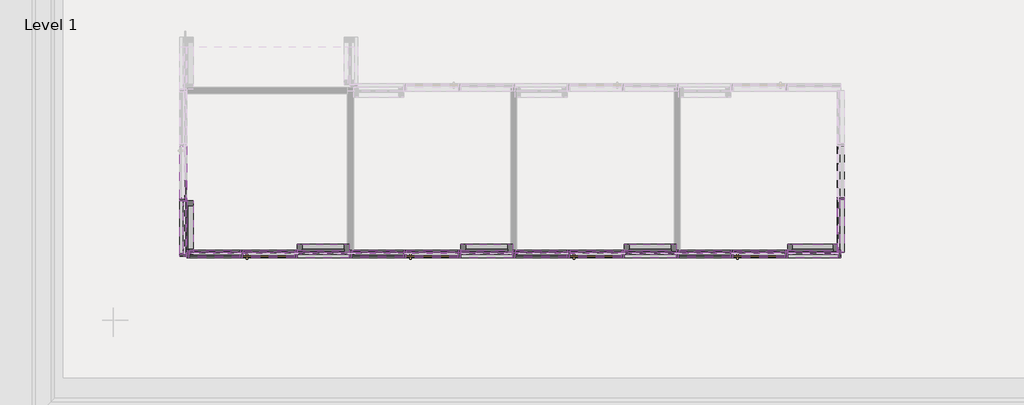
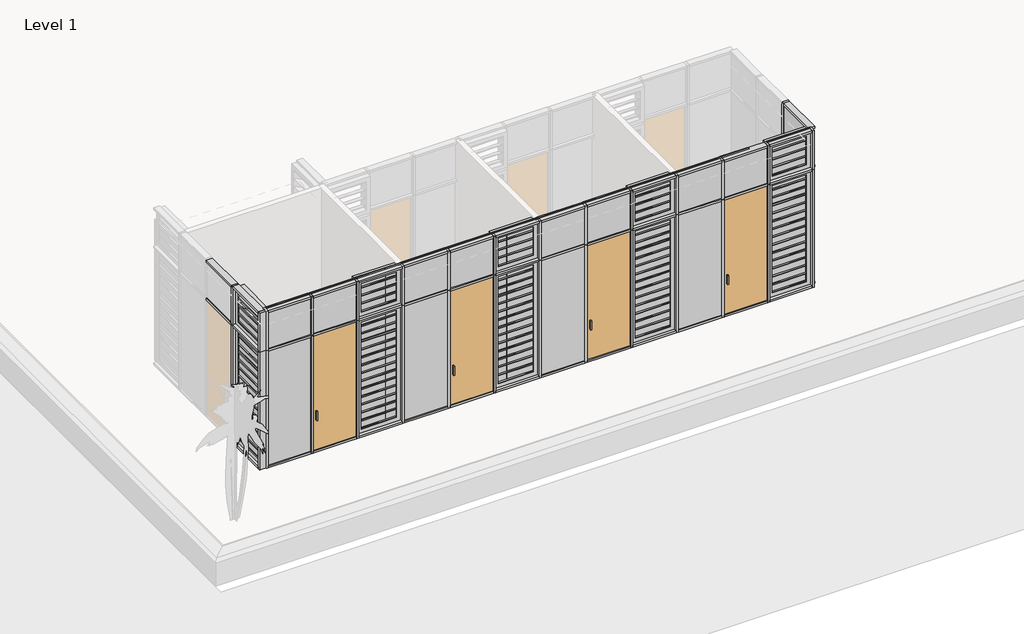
# One storey, part 1 of 32: 77 members, 44 plates, 4 doors.
"""IFC4 building model written with IfcOpenShell, lengths in millimetres."""

from ifc_helpers import new_model, si_unit, origin, place, context, project, spatial, transform, mapped, element, save
from components import curtain_wall_door_single_glass_nz_curtain_wall_door_single_ff8afd41, rectangular_mullion_50x150mm_6c7cb899, rectangular_mullion_50x150mm_bbc1c4ea, rectangular_mullion_50x150mm_0d540e17, rectangular_mullion_50x150mm_108cdc6f, rectangular_mullion_50x150mm_1a36453b, rectangular_mullion_50x150mm_a65b6ca2, rectangular_mullion_50x150mm_38419d34, rectangular_mullion_50x150mm_eeb88b28, rectangular_mullion_50x150mm_68c91185, rectangular_mullion_50x150mm_370dcb64, rectangular_mullion_50x150mm_1881577e, rectangular_mullion_50x150mm_969ed0b5, rectangular_mullion_50x150mm_a0cfcace, rectangular_mullion_50x150mm_a540b215, curtain_wall_panel_louver_20805_curtain_wall_panel_louver_14332c5b, curtain_wall_panel_louver_20805_curtain_wall_panel_louver_7a110b76, curtain_wall_panel_louver_20805_curtain_wall_panel_louver_a21b802a, curtain_wall_panel_glass_louver_20805_curtain_wall_panel_0f8e40a1, curtain_wall_panel_glass_louver_20805_curtain_wall_panel_42fa0640, curtain_wall_panel_glass_louver_20805_curtain_wall_panel_94629aa8, system_panel_glazed_c6855d5e, system_panel_glazed_5b1beea7, system_panel_glazed_fe6e58a4, system_panel_glazed_a80c9663, system_panel_glazed_53fe5bbb, system_panel_glazed_bed50b64, system_panel_glazed_57b1a7ec, system_panel_glazed_e3f4a273, system_panel_solid_10c0fb46, system_panel_solid_2b2d5e45

model = new_model("IFC4")

# Units and contexts
model_context = context("Model", 3, world=origin())
ifc_project = project(units=[si_unit("LENGTHUNIT", "METRE", prefix="MILLI")], contexts=[model_context])

# Site, building, storey
site = spatial("IfcSite", under=ifc_project)
building = spatial("IfcBuilding", under=site)
storey = spatial("IfcBuildingStorey", under=building, Name="Level 1", Elevation=2800.0)

# Doors
placement = place(None, origin())
curtain_wall_door_single_glass_nz_curtain_wall_door_single_shape = curtain_wall_door_single_glass_nz_curtain_wall_door_single_ff8afd41(model_context)
element("IfcDoor", 1, ObjectType="Curtain Wall Door-Single-Glass (NZ) : Curtain Wall Door-Single-Glass (NZ)", at=placement, inside=storey, context=model_context, shape_type="MappedRepresentation", body=[
    mapped(curtain_wall_door_single_glass_nz_curtain_wall_door_single_shape, transform((-75609.8408447, -33305.9199596, 2850.0), x_axis=(1.0, 0.0, 0.0), y_axis=(0.0, 1.0, 0.0), z_axis=(0.0, 0.0, 1.0))),
])
element("IfcDoor", 2, ObjectType="Curtain Wall Door-Single-Glass (NZ) : Curtain Wall Door-Single-Glass (NZ)", at=placement, inside=storey, context=model_context, shape_type="MappedRepresentation", body=[
    mapped(curtain_wall_door_single_glass_nz_curtain_wall_door_single_shape, transform((-78909.8408447, -33305.9199596, 2850.0), x_axis=(1.0, 0.0, 0.0), y_axis=(0.0, 1.0, 0.0), z_axis=(0.0, 0.0, 1.0))),
])
element("IfcDoor", 3, ObjectType="Curtain Wall Door-Single-Glass (NZ) : Curtain Wall Door-Single-Glass (NZ)", at=placement, inside=storey, context=model_context, shape_type="MappedRepresentation", body=[
    mapped(curtain_wall_door_single_glass_nz_curtain_wall_door_single_shape, transform((-82209.8408447, -33305.9199596, 2850.0), x_axis=(1.0, 0.0, 0.0), y_axis=(0.0, 1.0, 0.0), z_axis=(0.0, 0.0, 1.0))),
])
element("IfcDoor", 4, ObjectType="Curtain Wall Door-Single-Glass (NZ) : Curtain Wall Door-Single-Glass (NZ)", at=placement, inside=storey, context=model_context, shape_type="MappedRepresentation", body=[
    mapped(curtain_wall_door_single_glass_nz_curtain_wall_door_single_shape, transform((-85509.8408447, -33305.9199596, 2850.0), x_axis=(1.0, 0.0, 0.0), y_axis=(0.0, 1.0, 0.0), z_axis=(0.0, 0.0, 1.0))),
])

# Members
rectangular_mullion_50x150mm_shape = rectangular_mullion_50x150mm_6c7cb899(model_context)
element("IfcMember", 5, ObjectType="Rectangular Mullion : 50x150mm", at=placement, inside=storey, context=model_context, shape_type="MappedRepresentation", body=[
    mapped(rectangular_mullion_50x150mm_shape, transform((-73959.8408447, -32179.2532929, 2800.0), x_axis=(0.0, 1.0, 0.0), y_axis=(1.0, 0.0, 0.0), z_axis=(0.0, 0.0, -1.0))),
])
rectangular_mullion_50x150mm_2_shape = rectangular_mullion_50x150mm_bbc1c4ea(model_context)
element("IfcMember", 6, ObjectType="Rectangular Mullion : 50x150mm", at=placement, inside=storey, context=model_context, shape_type="MappedRepresentation", body=[
    mapped(rectangular_mullion_50x150mm_2_shape, transform((-73959.8408447, -32179.2532929, 5800.0), x_axis=(0.0, 1.0, 0.0), y_axis=(1.0, 0.0, 0.0), z_axis=(0.0, 0.0, -1.0))),
])
element("IfcMember", 7, ObjectType="Rectangular Mullion : 50x150mm", at=placement, inside=storey, context=model_context, shape_type="MappedRepresentation", body=[
    mapped(rectangular_mullion_50x150mm_2_shape, transform((-77259.8408447, -33305.9199596, 5800.0), x_axis=(1.0, 0.0, 0.0), y_axis=(0.0, -1.0, 0.0), z_axis=(0.0, 0.0, -1.0))),
])
element("IfcMember", 8, ObjectType="Rectangular Mullion : 50x150mm", at=placement, inside=storey, context=model_context, shape_type="MappedRepresentation", body=[
    mapped(rectangular_mullion_50x150mm_2_shape, transform((-80559.8408447, -33305.9199596, 5800.0), x_axis=(1.0, 0.0, 0.0), y_axis=(0.0, -1.0, 0.0), z_axis=(0.0, 0.0, -1.0))),
])
element("IfcMember", 9, ObjectType="Rectangular Mullion : 50x150mm", at=placement, inside=storey, context=model_context, shape_type="MappedRepresentation", body=[
    mapped(rectangular_mullion_50x150mm_2_shape, transform((-83859.8408447, -33305.9199596, 5800.0), x_axis=(1.0, 0.0, 0.0), y_axis=(0.0, -1.0, 0.0), z_axis=(0.0, 0.0, -1.0))),
])
element("IfcMember", 10, ObjectType="Rectangular Mullion : 50x150mm", at=placement, inside=storey, context=model_context, shape_type="MappedRepresentation", body=[
    mapped(rectangular_mullion_50x150mm_2_shape, transform((-75059.8408447, -33305.9199596, 5800.0), x_axis=(1.0, 0.0, 0.0), y_axis=(0.0, -1.0, 0.0), z_axis=(0.0, 0.0, -1.0))),
])
element("IfcMember", 11, ObjectType="Rectangular Mullion : 50x150mm", at=placement, inside=storey, context=model_context, shape_type="MappedRepresentation", body=[
    mapped(rectangular_mullion_50x150mm_2_shape, transform((-76159.8408447, -33305.9199596, 5800.0), x_axis=(1.0, 0.0, 0.0), y_axis=(0.0, -1.0, 0.0), z_axis=(0.0, 0.0, -1.0))),
])
element("IfcMember", 12, ObjectType="Rectangular Mullion : 50x150mm", at=placement, inside=storey, context=model_context, shape_type="MappedRepresentation", body=[
    mapped(rectangular_mullion_50x150mm_2_shape, transform((-78359.8408447, -33305.9199596, 5800.0), x_axis=(1.0, 0.0, 0.0), y_axis=(0.0, -1.0, 0.0), z_axis=(0.0, 0.0, -1.0))),
])
element("IfcMember", 13, ObjectType="Rectangular Mullion : 50x150mm", at=placement, inside=storey, context=model_context, shape_type="MappedRepresentation", body=[
    mapped(rectangular_mullion_50x150mm_2_shape, transform((-79459.8408447, -33305.9199596, 5800.0), x_axis=(1.0, 0.0, 0.0), y_axis=(0.0, -1.0, 0.0), z_axis=(0.0, 0.0, -1.0))),
])
element("IfcMember", 14, ObjectType="Rectangular Mullion : 50x150mm", at=placement, inside=storey, context=model_context, shape_type="MappedRepresentation", body=[
    mapped(rectangular_mullion_50x150mm_2_shape, transform((-81659.8408447, -33305.9199596, 5800.0), x_axis=(1.0, 0.0, 0.0), y_axis=(0.0, -1.0, 0.0), z_axis=(0.0, 0.0, -1.0))),
])
element("IfcMember", 15, ObjectType="Rectangular Mullion : 50x150mm", at=placement, inside=storey, context=model_context, shape_type="MappedRepresentation", body=[
    mapped(rectangular_mullion_50x150mm_2_shape, transform((-82759.8408447, -33305.9199596, 5800.0), x_axis=(1.0, 0.0, 0.0), y_axis=(0.0, -1.0, 0.0), z_axis=(0.0, 0.0, -1.0))),
])
element("IfcMember", 16, ObjectType="Rectangular Mullion : 50x150mm", at=placement, inside=storey, context=model_context, shape_type="MappedRepresentation", body=[
    mapped(rectangular_mullion_50x150mm_2_shape, transform((-84959.8408447, -33305.9199596, 5800.0), x_axis=(1.0, 0.0, 0.0), y_axis=(0.0, -1.0, 0.0), z_axis=(0.0, 0.0, -1.0))),
])
element("IfcMember", 17, ObjectType="Rectangular Mullion : 50x150mm", at=placement, inside=storey, context=model_context, shape_type="MappedRepresentation", body=[
    mapped(rectangular_mullion_50x150mm_2_shape, transform((-86059.8408447, -33305.9199596, 5800.0), x_axis=(1.0, 0.0, 0.0), y_axis=(0.0, -1.0, 0.0), z_axis=(0.0, 0.0, -1.0))),
])
element("IfcMember", 18, ObjectType="Rectangular Mullion : 50x150mm", at=placement, inside=storey, context=model_context, shape_type="MappedRepresentation", body=[
    mapped(rectangular_mullion_50x150mm_shape, transform((-77259.8408447, -33305.9199596, 2800.0), x_axis=(1.0, 0.0, 0.0), y_axis=(0.0, -1.0, 0.0), z_axis=(0.0, 0.0, -1.0))),
])
element("IfcMember", 19, ObjectType="Rectangular Mullion : 50x150mm", at=placement, inside=storey, context=model_context, shape_type="MappedRepresentation", body=[
    mapped(rectangular_mullion_50x150mm_shape, transform((-80559.8408447, -33305.9199596, 2800.0), x_axis=(1.0, 0.0, 0.0), y_axis=(0.0, -1.0, 0.0), z_axis=(0.0, 0.0, -1.0))),
])
element("IfcMember", 20, ObjectType="Rectangular Mullion : 50x150mm", at=placement, inside=storey, context=model_context, shape_type="MappedRepresentation", body=[
    mapped(rectangular_mullion_50x150mm_shape, transform((-83859.8408447, -33305.9199596, 2800.0), x_axis=(1.0, 0.0, 0.0), y_axis=(0.0, -1.0, 0.0), z_axis=(0.0, 0.0, -1.0))),
])
element("IfcMember", 21, ObjectType="Rectangular Mullion : 50x150mm", at=placement, inside=storey, context=model_context, shape_type="MappedRepresentation", body=[
    mapped(rectangular_mullion_50x150mm_shape, transform((-75059.8408447, -33305.9199596, 2800.0), x_axis=(1.0, 0.0, 0.0), y_axis=(0.0, -1.0, 0.0), z_axis=(0.0, 0.0, -1.0))),
])
element("IfcMember", 22, ObjectType="Rectangular Mullion : 50x150mm", at=placement, inside=storey, context=model_context, shape_type="MappedRepresentation", body=[
    mapped(rectangular_mullion_50x150mm_shape, transform((-76159.8408447, -33305.9199596, 2800.0), x_axis=(1.0, 0.0, 0.0), y_axis=(0.0, -1.0, 0.0), z_axis=(0.0, 0.0, -1.0))),
])
element("IfcMember", 23, ObjectType="Rectangular Mullion : 50x150mm", at=placement, inside=storey, context=model_context, shape_type="MappedRepresentation", body=[
    mapped(rectangular_mullion_50x150mm_shape, transform((-78359.8408447, -33305.9199596, 2800.0), x_axis=(1.0, 0.0, 0.0), y_axis=(0.0, -1.0, 0.0), z_axis=(0.0, 0.0, -1.0))),
])
element("IfcMember", 24, ObjectType="Rectangular Mullion : 50x150mm", at=placement, inside=storey, context=model_context, shape_type="MappedRepresentation", body=[
    mapped(rectangular_mullion_50x150mm_shape, transform((-79459.8408447, -33305.9199596, 2800.0), x_axis=(1.0, 0.0, 0.0), y_axis=(0.0, -1.0, 0.0), z_axis=(0.0, 0.0, -1.0))),
])
element("IfcMember", 25, ObjectType="Rectangular Mullion : 50x150mm", at=placement, inside=storey, context=model_context, shape_type="MappedRepresentation", body=[
    mapped(rectangular_mullion_50x150mm_shape, transform((-81659.8408447, -33305.9199596, 2800.0), x_axis=(1.0, 0.0, 0.0), y_axis=(0.0, -1.0, 0.0), z_axis=(0.0, 0.0, -1.0))),
])
element("IfcMember", 26, ObjectType="Rectangular Mullion : 50x150mm", at=placement, inside=storey, context=model_context, shape_type="MappedRepresentation", body=[
    mapped(rectangular_mullion_50x150mm_shape, transform((-82759.8408447, -33305.9199596, 2800.0), x_axis=(1.0, 0.0, 0.0), y_axis=(0.0, -1.0, 0.0), z_axis=(0.0, 0.0, -1.0))),
])
element("IfcMember", 27, ObjectType="Rectangular Mullion : 50x150mm", at=placement, inside=storey, context=model_context, shape_type="MappedRepresentation", body=[
    mapped(rectangular_mullion_50x150mm_shape, transform((-84959.8408447, -33305.9199596, 2800.0), x_axis=(1.0, 0.0, 0.0), y_axis=(0.0, -1.0, 0.0), z_axis=(0.0, 0.0, -1.0))),
])
element("IfcMember", 28, ObjectType="Rectangular Mullion : 50x150mm", at=placement, inside=storey, context=model_context, shape_type="MappedRepresentation", body=[
    mapped(rectangular_mullion_50x150mm_shape, transform((-86059.8408447, -33305.9199596, 2800.0), x_axis=(1.0, 0.0, 0.0), y_axis=(0.0, -1.0, 0.0), z_axis=(0.0, 0.0, -1.0))),
])
rectangular_mullion_50x150mm_3_shape = rectangular_mullion_50x150mm_0d540e17(model_context)
element("IfcMember", 29, ObjectType="Rectangular Mullion : 50x150mm", at=placement, inside=storey, context=model_context, shape_type="MappedRepresentation", body=[
    mapped(rectangular_mullion_50x150mm_3_shape, transform((-76184.8408447, -33305.9199596, 5800.0), x_axis=(0.0, 0.0, 1.0), y_axis=(0.0, -1.0, 0.0), z_axis=(1.0, 0.0, 0.0))),
])
element("IfcMember", 30, ObjectType="Rectangular Mullion : 50x150mm", at=placement, inside=storey, context=model_context, shape_type="MappedRepresentation", body=[
    mapped(rectangular_mullion_50x150mm_3_shape, transform((-79484.8408447, -33305.9199596, 5800.0), x_axis=(0.0, 0.0, 1.0), y_axis=(0.0, -1.0, 0.0), z_axis=(1.0, 0.0, 0.0))),
])
element("IfcMember", 31, ObjectType="Rectangular Mullion : 50x150mm", at=placement, inside=storey, context=model_context, shape_type="MappedRepresentation", body=[
    mapped(rectangular_mullion_50x150mm_3_shape, transform((-82784.8408447, -33305.9199596, 5800.0), x_axis=(0.0, 0.0, 1.0), y_axis=(0.0, -1.0, 0.0), z_axis=(1.0, 0.0, 0.0))),
])
element("IfcMember", 32, ObjectType="Rectangular Mullion : 50x150mm", at=placement, inside=storey, context=model_context, shape_type="MappedRepresentation", body=[
    mapped(rectangular_mullion_50x150mm_3_shape, transform((-75084.8408447, -33305.9199596, 5800.0), x_axis=(0.0, 0.0, 1.0), y_axis=(0.0, -1.0, 0.0), z_axis=(1.0, 0.0, 0.0))),
])
element("IfcMember", 33, ObjectType="Rectangular Mullion : 50x150mm", at=placement, inside=storey, context=model_context, shape_type="MappedRepresentation", body=[
    mapped(rectangular_mullion_50x150mm_3_shape, transform((-77284.8408447, -33305.9199596, 5800.0), x_axis=(0.0, 0.0, 1.0), y_axis=(0.0, -1.0, 0.0), z_axis=(1.0, 0.0, 0.0))),
])
element("IfcMember", 34, ObjectType="Rectangular Mullion : 50x150mm", at=placement, inside=storey, context=model_context, shape_type="MappedRepresentation", body=[
    mapped(rectangular_mullion_50x150mm_3_shape, transform((-78384.8408447, -33305.9199596, 5800.0), x_axis=(0.0, 0.0, 1.0), y_axis=(0.0, -1.0, 0.0), z_axis=(1.0, 0.0, 0.0))),
])
element("IfcMember", 35, ObjectType="Rectangular Mullion : 50x150mm", at=placement, inside=storey, context=model_context, shape_type="MappedRepresentation", body=[
    mapped(rectangular_mullion_50x150mm_3_shape, transform((-80584.8408447, -33305.9199596, 5800.0), x_axis=(0.0, 0.0, 1.0), y_axis=(0.0, -1.0, 0.0), z_axis=(1.0, 0.0, 0.0))),
])
element("IfcMember", 36, ObjectType="Rectangular Mullion : 50x150mm", at=placement, inside=storey, context=model_context, shape_type="MappedRepresentation", body=[
    mapped(rectangular_mullion_50x150mm_3_shape, transform((-81684.8408447, -33305.9199596, 5800.0), x_axis=(0.0, 0.0, 1.0), y_axis=(0.0, -1.0, 0.0), z_axis=(1.0, 0.0, 0.0))),
])
element("IfcMember", 37, ObjectType="Rectangular Mullion : 50x150mm", at=placement, inside=storey, context=model_context, shape_type="MappedRepresentation", body=[
    mapped(rectangular_mullion_50x150mm_3_shape, transform((-83884.8408447, -33305.9199596, 5800.0), x_axis=(0.0, 0.0, 1.0), y_axis=(0.0, -1.0, 0.0), z_axis=(1.0, 0.0, 0.0))),
])
element("IfcMember", 38, ObjectType="Rectangular Mullion : 50x150mm", at=placement, inside=storey, context=model_context, shape_type="MappedRepresentation", body=[
    mapped(rectangular_mullion_50x150mm_3_shape, transform((-84984.8408447, -33305.9199596, 5800.0), x_axis=(0.0, 0.0, 1.0), y_axis=(0.0, -1.0, 0.0), z_axis=(1.0, 0.0, 0.0))),
])
rectangular_mullion_50x150mm_4_shape = rectangular_mullion_50x150mm_108cdc6f(model_context)
element("IfcMember", 39, ObjectType="Rectangular Mullion : 50x150mm", at=placement, inside=storey, context=model_context, shape_type="MappedRepresentation", body=[
    mapped(rectangular_mullion_50x150mm_4_shape, transform((-77234.8408447, -33305.9199596, 2800.0), x_axis=(0.0, 0.0, -1.0), y_axis=(0.0, -1.0, 0.0), z_axis=(-1.0, 0.0, 0.0))),
])
element("IfcMember", 40, ObjectType="Rectangular Mullion : 50x150mm", at=placement, inside=storey, context=model_context, shape_type="MappedRepresentation", body=[
    mapped(rectangular_mullion_50x150mm_4_shape, transform((-80534.8408447, -33305.9199596, 2800.0), x_axis=(0.0, 0.0, -1.0), y_axis=(0.0, -1.0, 0.0), z_axis=(-1.0, 0.0, 0.0))),
])
element("IfcMember", 41, ObjectType="Rectangular Mullion : 50x150mm", at=placement, inside=storey, context=model_context, shape_type="MappedRepresentation", body=[
    mapped(rectangular_mullion_50x150mm_4_shape, transform((-83834.8408447, -33305.9199596, 2800.0), x_axis=(0.0, 0.0, -1.0), y_axis=(0.0, -1.0, 0.0), z_axis=(-1.0, 0.0, 0.0))),
])
element("IfcMember", 42, ObjectType="Rectangular Mullion : 50x150mm", at=placement, inside=storey, context=model_context, shape_type="MappedRepresentation", body=[
    mapped(rectangular_mullion_50x150mm_4_shape, transform((-76134.8408447, -33305.9199596, 2800.0), x_axis=(0.0, 0.0, -1.0), y_axis=(0.0, -1.0, 0.0), z_axis=(-1.0, 0.0, 0.0))),
])
element("IfcMember", 43, ObjectType="Rectangular Mullion : 50x150mm", at=placement, inside=storey, context=model_context, shape_type="MappedRepresentation", body=[
    mapped(rectangular_mullion_50x150mm_4_shape, transform((-78334.8408447, -33305.9199596, 2800.0), x_axis=(0.0, 0.0, -1.0), y_axis=(0.0, -1.0, 0.0), z_axis=(-1.0, 0.0, 0.0))),
])
element("IfcMember", 44, ObjectType="Rectangular Mullion : 50x150mm", at=placement, inside=storey, context=model_context, shape_type="MappedRepresentation", body=[
    mapped(rectangular_mullion_50x150mm_4_shape, transform((-79434.8408447, -33305.9199596, 2800.0), x_axis=(0.0, 0.0, -1.0), y_axis=(0.0, -1.0, 0.0), z_axis=(-1.0, 0.0, 0.0))),
])
element("IfcMember", 45, ObjectType="Rectangular Mullion : 50x150mm", at=placement, inside=storey, context=model_context, shape_type="MappedRepresentation", body=[
    mapped(rectangular_mullion_50x150mm_4_shape, transform((-81634.8408447, -33305.9199596, 2800.0), x_axis=(0.0, 0.0, -1.0), y_axis=(0.0, -1.0, 0.0), z_axis=(-1.0, 0.0, 0.0))),
])
element("IfcMember", 46, ObjectType="Rectangular Mullion : 50x150mm", at=placement, inside=storey, context=model_context, shape_type="MappedRepresentation", body=[
    mapped(rectangular_mullion_50x150mm_4_shape, transform((-82734.8408447, -33305.9199596, 2800.0), x_axis=(0.0, 0.0, -1.0), y_axis=(0.0, -1.0, 0.0), z_axis=(-1.0, 0.0, 0.0))),
])
element("IfcMember", 47, ObjectType="Rectangular Mullion : 50x150mm", at=placement, inside=storey, context=model_context, shape_type="MappedRepresentation", body=[
    mapped(rectangular_mullion_50x150mm_4_shape, transform((-84934.8408447, -33305.9199596, 2800.0), x_axis=(0.0, 0.0, -1.0), y_axis=(0.0, -1.0, 0.0), z_axis=(-1.0, 0.0, 0.0))),
])
element("IfcMember", 48, ObjectType="Rectangular Mullion : 50x150mm", at=placement, inside=storey, context=model_context, shape_type="MappedRepresentation", body=[
    mapped(rectangular_mullion_50x150mm_4_shape, transform((-86034.8408447, -33305.9199596, 2800.0), x_axis=(0.0, 0.0, -1.0), y_axis=(0.0, -1.0, 0.0), z_axis=(-1.0, 0.0, 0.0))),
])
rectangular_mullion_50x150mm_5_shape = rectangular_mullion_50x150mm_1a36453b(model_context)
element("IfcMember", 49, ObjectType="Rectangular Mullion : 50x150mm", at=placement, inside=storey, context=model_context, shape_type="MappedRepresentation", body=[
    mapped(rectangular_mullion_50x150mm_5_shape, transform((-77284.8408447, -33305.9199596, 6800.0), x_axis=(0.0, 0.0, 1.0), y_axis=(0.0, -1.0, 0.0), z_axis=(1.0, 0.0, 0.0))),
])
element("IfcMember", 50, ObjectType="Rectangular Mullion : 50x150mm", at=placement, inside=storey, context=model_context, shape_type="MappedRepresentation", body=[
    mapped(rectangular_mullion_50x150mm_5_shape, transform((-80584.8408447, -33305.9199596, 6800.0), x_axis=(0.0, 0.0, 1.0), y_axis=(0.0, -1.0, 0.0), z_axis=(1.0, 0.0, 0.0))),
])
element("IfcMember", 51, ObjectType="Rectangular Mullion : 50x150mm", at=placement, inside=storey, context=model_context, shape_type="MappedRepresentation", body=[
    mapped(rectangular_mullion_50x150mm_5_shape, transform((-83884.8408447, -33305.9199596, 6800.0), x_axis=(0.0, 0.0, 1.0), y_axis=(0.0, -1.0, 0.0), z_axis=(1.0, 0.0, 0.0))),
])
element("IfcMember", 52, ObjectType="Rectangular Mullion : 50x150mm", at=placement, inside=storey, context=model_context, shape_type="MappedRepresentation", body=[
    mapped(rectangular_mullion_50x150mm_5_shape, transform((-75084.8408447, -33305.9199596, 6800.0), x_axis=(0.0, 0.0, 1.0), y_axis=(0.0, -1.0, 0.0), z_axis=(1.0, 0.0, 0.0))),
])
element("IfcMember", 53, ObjectType="Rectangular Mullion : 50x150mm", at=placement, inside=storey, context=model_context, shape_type="MappedRepresentation", body=[
    mapped(rectangular_mullion_50x150mm_5_shape, transform((-76184.8408447, -33305.9199596, 6800.0), x_axis=(0.0, 0.0, 1.0), y_axis=(0.0, -1.0, 0.0), z_axis=(1.0, 0.0, 0.0))),
])
element("IfcMember", 54, ObjectType="Rectangular Mullion : 50x150mm", at=placement, inside=storey, context=model_context, shape_type="MappedRepresentation", body=[
    mapped(rectangular_mullion_50x150mm_5_shape, transform((-78384.8408447, -33305.9199596, 6800.0), x_axis=(0.0, 0.0, 1.0), y_axis=(0.0, -1.0, 0.0), z_axis=(1.0, 0.0, 0.0))),
])
element("IfcMember", 55, ObjectType="Rectangular Mullion : 50x150mm", at=placement, inside=storey, context=model_context, shape_type="MappedRepresentation", body=[
    mapped(rectangular_mullion_50x150mm_5_shape, transform((-79484.8408447, -33305.9199596, 6800.0), x_axis=(0.0, 0.0, 1.0), y_axis=(0.0, -1.0, 0.0), z_axis=(1.0, 0.0, 0.0))),
])
element("IfcMember", 56, ObjectType="Rectangular Mullion : 50x150mm", at=placement, inside=storey, context=model_context, shape_type="MappedRepresentation", body=[
    mapped(rectangular_mullion_50x150mm_5_shape, transform((-81684.8408447, -33305.9199596, 6800.0), x_axis=(0.0, 0.0, 1.0), y_axis=(0.0, -1.0, 0.0), z_axis=(1.0, 0.0, 0.0))),
])
element("IfcMember", 57, ObjectType="Rectangular Mullion : 50x150mm", at=placement, inside=storey, context=model_context, shape_type="MappedRepresentation", body=[
    mapped(rectangular_mullion_50x150mm_5_shape, transform((-82784.8408447, -33305.9199596, 6800.0), x_axis=(0.0, 0.0, 1.0), y_axis=(0.0, -1.0, 0.0), z_axis=(1.0, 0.0, 0.0))),
])
element("IfcMember", 58, ObjectType="Rectangular Mullion : 50x150mm", at=placement, inside=storey, context=model_context, shape_type="MappedRepresentation", body=[
    mapped(rectangular_mullion_50x150mm_5_shape, transform((-84984.8408447, -33305.9199596, 6800.0), x_axis=(0.0, 0.0, 1.0), y_axis=(0.0, -1.0, 0.0), z_axis=(1.0, 0.0, 0.0))),
])
element("IfcMember", 59, ObjectType="Rectangular Mullion : 50x150mm", at=placement, inside=storey, context=model_context, shape_type="MappedRepresentation", body=[
    mapped(rectangular_mullion_50x150mm_5_shape, transform((-87234.8408447, -32180.9199597, 6800.0), x_axis=(0.0, 0.0, 1.0), y_axis=(-1.0, 0.0, 0.0), z_axis=(0.0, -1.0, 0.0))),
])
rectangular_mullion_50x150mm_6_shape = rectangular_mullion_50x150mm_a65b6ca2(model_context)
element("IfcMember", 60, ObjectType="Rectangular Mullion : 50x150mm", at=placement, inside=storey, context=model_context, shape_type="MappedRepresentation", body=[
    mapped(rectangular_mullion_50x150mm_6_shape, transform((-74009.8408447, -33305.9199596, 6800.0), x_axis=(0.0, 0.0, 1.0), y_axis=(0.0, -1.0, 0.0), z_axis=(1.0, 0.0, 0.0))),
])
element("IfcMember", 61, ObjectType="Rectangular Mullion : 50x150mm", at=placement, inside=storey, context=model_context, shape_type="MappedRepresentation", body=[
    mapped(rectangular_mullion_50x150mm_6_shape, transform((-86084.8408447, -33305.9199596, 6800.0), x_axis=(0.0, 0.0, 1.0), y_axis=(0.0, -1.0, 0.0), z_axis=(1.0, 0.0, 0.0))),
])
element("IfcMember", 62, ObjectType="Rectangular Mullion : 50x150mm", at=placement, inside=storey, context=model_context, shape_type="MappedRepresentation", body=[
    mapped(rectangular_mullion_50x150mm_6_shape, transform((-87109.8408447, -33305.9199596, 2800.0), x_axis=(0.0, 0.0, -1.0), y_axis=(0.0, -1.0, 0.0), z_axis=(-1.0, 0.0, 0.0))),
])
element("IfcMember", 63, ObjectType="Rectangular Mullion : 50x150mm", at=placement, inside=storey, context=model_context, shape_type="MappedRepresentation", body=[
    mapped(rectangular_mullion_50x150mm_6_shape, transform((-75034.8408447, -33305.9199596, 2800.0), x_axis=(0.0, 0.0, -1.0), y_axis=(0.0, -1.0, 0.0), z_axis=(-1.0, 0.0, 0.0))),
])
rectangular_mullion_50x150mm_7_shape = rectangular_mullion_50x150mm_38419d34(model_context)
element("IfcMember", 64, ObjectType="Rectangular Mullion : 50x150mm", at=placement, inside=storey, context=model_context, shape_type="MappedRepresentation", body=[
    mapped(rectangular_mullion_50x150mm_7_shape, transform((-86084.8408447, -33305.9199596, 5800.0), x_axis=(0.0, 0.0, 1.0), y_axis=(0.0, -1.0, 0.0), z_axis=(1.0, 0.0, 0.0))),
])
element("IfcMember", 65, ObjectType="Rectangular Mullion : 50x150mm", at=placement, inside=storey, context=model_context, shape_type="MappedRepresentation", body=[
    mapped(rectangular_mullion_50x150mm_7_shape, transform((-74009.8408447, -33305.9199596, 5800.0), x_axis=(0.0, 0.0, 1.0), y_axis=(0.0, -1.0, 0.0), z_axis=(1.0, 0.0, 0.0))),
])
rectangular_mullion_50x150mm_8_shape = rectangular_mullion_50x150mm_eeb88b28(model_context)
element("IfcMember", 66, ObjectType="Rectangular Mullion : 50x150mm", at=placement, inside=storey, context=model_context, shape_type="MappedRepresentation", body=[
    mapped(rectangular_mullion_50x150mm_8_shape, transform((-87159.8408447, -33305.9199596, 6800.0), x_axis=(-1.0, 0.0, 0.0), y_axis=(0.0, -1.0, 0.0), z_axis=(0.0, 0.0, 1.0))),
])
rectangular_mullion_50x150mm_9_shape = rectangular_mullion_50x150mm_68c91185(model_context)
element("IfcMember", 67, ObjectType="Rectangular Mullion : 50x150mm", at=placement, inside=storey, context=model_context, shape_type="MappedRepresentation", body=[
    mapped(rectangular_mullion_50x150mm_9_shape, transform((-73959.8408447, -33305.9199596, 2800.0), x_axis=(1.0, 0.0, 0.0), y_axis=(0.0, -1.0, 0.0), z_axis=(0.0, 0.0, -1.0))),
])
element("IfcMember", 68, ObjectType="Rectangular Mullion : 50x150mm", at=placement, inside=storey, context=model_context, shape_type="MappedRepresentation", body=[
    mapped(rectangular_mullion_50x150mm_8_shape, transform((-73959.8408447, -33305.9199596, 5800.0), x_axis=(1.0, 0.0, 0.0), y_axis=(0.0, -1.0, 0.0), z_axis=(0.0, 0.0, -1.0))),
])
element("IfcMember", 69, ObjectType="Rectangular Mullion : 50x150mm", at=placement, inside=storey, context=model_context, shape_type="MappedRepresentation", body=[
    mapped(rectangular_mullion_50x150mm_9_shape, transform((-87159.8408447, -33305.9199596, 5800.0), x_axis=(-1.0, 0.0, 0.0), y_axis=(0.0, -1.0, 0.0), z_axis=(0.0, 0.0, 1.0))),
])
element("IfcMember", 70, ObjectType="Rectangular Mullion : 50x150mm", at=placement, inside=storey, context=model_context, shape_type="MappedRepresentation", body=[
    mapped(rectangular_mullion_50x150mm_2_shape, transform((-87234.8408447, -32205.9199597, 5800.0), x_axis=(0.0, -1.0, 0.0), y_axis=(-1.0, 0.0, 0.0), z_axis=(0.0, 0.0, -1.0))),
])
element("IfcMember", 71, ObjectType="Rectangular Mullion : 50x150mm", at=placement, inside=storey, context=model_context, shape_type="MappedRepresentation", body=[
    mapped(rectangular_mullion_50x150mm_shape, transform((-87234.8408447, -32205.9199597, 2800.0), x_axis=(0.0, -1.0, 0.0), y_axis=(-1.0, 0.0, 0.0), z_axis=(0.0, 0.0, -1.0))),
])
element("IfcMember", 72, ObjectType="Rectangular Mullion : 50x150mm", at=placement, inside=storey, context=model_context, shape_type="MappedRepresentation", body=[
    mapped(rectangular_mullion_50x150mm_8_shape, transform((-87234.8408447, -33355.4199596, 5800.0), x_axis=(0.0, -1.0, 0.0), y_axis=(-1.0, 0.0, 0.0), z_axis=(0.0, 0.0, -1.0))),
])
element("IfcMember", 73, ObjectType="Rectangular Mullion : 50x150mm", at=placement, inside=storey, context=model_context, shape_type="MappedRepresentation", body=[
    mapped(rectangular_mullion_50x150mm_9_shape, transform((-87234.8408447, -33355.4199596, 2800.0), x_axis=(0.0, -1.0, 0.0), y_axis=(-1.0, 0.0, 0.0), z_axis=(0.0, 0.0, -1.0))),
])
element("IfcMember", 74, ObjectType="Rectangular Mullion : 50x150mm", at=placement, inside=storey, context=model_context, shape_type="MappedRepresentation", body=[
    mapped(rectangular_mullion_50x150mm_3_shape, transform((-87234.8408447, -32180.9199597, 5800.0), x_axis=(0.0, 0.0, 1.0), y_axis=(-1.0, 0.0, 0.0), z_axis=(0.0, -1.0, 0.0))),
])
rectangular_mullion_50x150mm_10_shape = rectangular_mullion_50x150mm_370dcb64(model_context)
element("IfcMember", 75, ObjectType="Rectangular Mullion : 50x150mm", at=placement, inside=storey, context=model_context, shape_type="MappedRepresentation", body=[
    mapped(rectangular_mullion_50x150mm_10_shape, transform((-87234.8408447, -33305.4199596, 6800.0), x_axis=(0.0, 0.0, 1.0), y_axis=(-1.0, 0.0, 0.0), z_axis=(0.0, -1.0, 0.0))),
])
rectangular_mullion_50x150mm_11_shape = rectangular_mullion_50x150mm_1881577e(model_context)
element("IfcMember", 76, ObjectType="Rectangular Mullion : 50x150mm", at=placement, inside=storey, context=model_context, shape_type="MappedRepresentation", body=[
    mapped(rectangular_mullion_50x150mm_11_shape, transform((-87234.8408447, -33305.4199596, 5800.0), x_axis=(0.0, 0.0, 1.0), y_axis=(-1.0, 0.0, 0.0), z_axis=(0.0, -1.0, 0.0))),
])
element("IfcMember", 77, ObjectType="Rectangular Mullion : 50x150mm", at=placement, inside=storey, context=model_context, shape_type="MappedRepresentation", body=[
    mapped(rectangular_mullion_50x150mm_10_shape, transform((-87234.8408447, -32230.9199597, 2800.0), x_axis=(0.0, 0.0, -1.0), y_axis=(-1.0, 0.0, 0.0), z_axis=(0.0, 1.0, 0.0))),
])
rectangular_mullion_50x150mm_12_shape = rectangular_mullion_50x150mm_969ed0b5(model_context)
element("IfcMember", 78, ObjectType="Rectangular Mullion : 50x150mm", at=placement, inside=storey, context=model_context, shape_type="MappedRepresentation", body=[
    mapped(rectangular_mullion_50x150mm_12_shape, transform((-73959.8408447, -32204.2532929, 5800.0), x_axis=(0.0, 0.0, 1.0), y_axis=(1.0, 0.0, 0.0), z_axis=(0.0, 1.0, 0.0))),
])
rectangular_mullion_50x150mm_13_shape = rectangular_mullion_50x150mm_a0cfcace(model_context)
element("IfcMember", 79, ObjectType="Rectangular Mullion : 50x150mm", at=placement, inside=storey, context=model_context, shape_type="MappedRepresentation", body=[
    mapped(rectangular_mullion_50x150mm_13_shape, transform((-73959.8408447, -32204.2532929, 6800.0), x_axis=(0.0, 0.0, 1.0), y_axis=(1.0, 0.0, 0.0), z_axis=(0.0, 1.0, 0.0))),
])
rectangular_mullion_50x150mm_14_shape = rectangular_mullion_50x150mm_a540b215(model_context)
element("IfcMember", 80, ObjectType="Rectangular Mullion : 50x150mm", at=placement, inside=storey, context=model_context, shape_type="MappedRepresentation", body=[
    mapped(rectangular_mullion_50x150mm_14_shape, transform((-73959.8408447, -32154.2532929, 2800.0), x_axis=(0.0, 0.0, -1.0), y_axis=(1.0, 0.0, 0.0), z_axis=(0.0, -1.0, 0.0))),
])
element("IfcMember", 81, ObjectType="Rectangular Mullion : 50x150mm", at=placement, inside=storey, context=model_context, shape_type="MappedRepresentation", body=[
    mapped(rectangular_mullion_50x150mm_13_shape, transform((-73959.8408447, -33265.9199596, 2800.0), x_axis=(0.0, 0.0, -1.0), y_axis=(1.0, 0.0, 0.0), z_axis=(0.0, -1.0, 0.0))),
])

# Plates
curtain_wall_panel_louver_20805_curtain_wall_panel_louver_shape = curtain_wall_panel_louver_20805_curtain_wall_panel_louver_14332c5b(model_context)
element("IfcPlate", 82, ObjectType="Curtain_wall_panel_-_Louver_20805 : Curtain_wall_panel_-_Louver_20805", at=placement, inside=storey, context=model_context, shape_type="MappedRepresentation", body=[
    mapped(curtain_wall_panel_louver_20805_curtain_wall_panel_louver_shape, transform((-84409.8408447, -33305.9199596, 5825.0), x_axis=(1.0, 0.0, 0.0), y_axis=(0.0, 1.0, 0.0), z_axis=(0.0, 0.0, 1.0))),
])
element("IfcPlate", 83, ObjectType="Curtain_wall_panel_-_Louver_20805 : Curtain_wall_panel_-_Louver_20805", at=placement, inside=storey, context=model_context, shape_type="MappedRepresentation", body=[
    mapped(curtain_wall_panel_louver_20805_curtain_wall_panel_louver_shape, transform((-81109.8408447, -33305.9199596, 5825.0), x_axis=(1.0, 0.0, 0.0), y_axis=(0.0, 1.0, 0.0), z_axis=(0.0, 0.0, 1.0))),
])
element("IfcPlate", 84, ObjectType="Curtain_wall_panel_-_Louver_20805 : Curtain_wall_panel_-_Louver_20805", at=placement, inside=storey, context=model_context, shape_type="MappedRepresentation", body=[
    mapped(curtain_wall_panel_louver_20805_curtain_wall_panel_louver_shape, transform((-77809.8408447, -33305.9199596, 5825.0), x_axis=(1.0, 0.0, 0.0), y_axis=(0.0, 1.0, 0.0), z_axis=(0.0, 0.0, 1.0))),
])
curtain_wall_panel_louver_20805_curtain_wall_panel_louver_2_shape = curtain_wall_panel_louver_20805_curtain_wall_panel_louver_7a110b76(model_context)
element("IfcPlate", 85, ObjectType="Curtain_wall_panel_-_Louver_20805 : Curtain_wall_panel_-_Louver_20805", at=placement, inside=storey, context=model_context, shape_type="MappedRepresentation", body=[
    mapped(curtain_wall_panel_louver_20805_curtain_wall_panel_louver_2_shape, transform((-74522.3408447, -33305.9199596, 5825.0), x_axis=(1.0, 0.0, 0.0), y_axis=(0.0, 1.0, 0.0), z_axis=(0.0, 0.0, 1.0))),
])
curtain_wall_panel_louver_20805_curtain_wall_panel_louver_3_shape = curtain_wall_panel_louver_20805_curtain_wall_panel_louver_a21b802a(model_context)
element("IfcPlate", 86, ObjectType="Curtain_wall_panel_-_Louver_20805 : Curtain_wall_panel_-_Louver_20805", at=placement, inside=storey, context=model_context, shape_type="MappedRepresentation", body=[
    mapped(curtain_wall_panel_louver_20805_curtain_wall_panel_louver_3_shape, transform((-87234.8408447, -32768.1699597, 5825.0), x_axis=(0.0, -1.0, 0.0), y_axis=(1.0, 0.0, 0.0), z_axis=(0.0, 0.0, 1.0))),
])
curtain_wall_panel_glass_louver_20805_curtain_wall_panel_shape = curtain_wall_panel_glass_louver_20805_curtain_wall_panel_0f8e40a1(model_context)
element("IfcPlate", 87, ObjectType="Curtain_wall_panel_glass_Louver_20805 : Curtain_wall_panel_glass_Louver_20805", at=placement, inside=storey, context=model_context, shape_type="MappedRepresentation", body=[
    mapped(curtain_wall_panel_glass_louver_20805_curtain_wall_panel_shape, transform((-77809.8408447, -33305.9199596, 2850.0), x_axis=(1.0, 0.0, 0.0), y_axis=(0.0, 1.0, 0.0), z_axis=(0.0, 0.0, 1.0))),
])
element("IfcPlate", 88, ObjectType="Curtain_wall_panel_glass_Louver_20805 : Curtain_wall_panel_glass_Louver_20805", at=placement, inside=storey, context=model_context, shape_type="MappedRepresentation", body=[
    mapped(curtain_wall_panel_glass_louver_20805_curtain_wall_panel_shape, transform((-81109.8408447, -33305.9199596, 2850.0), x_axis=(1.0, 0.0, 0.0), y_axis=(0.0, 1.0, 0.0), z_axis=(0.0, 0.0, 1.0))),
])
element("IfcPlate", 89, ObjectType="Curtain_wall_panel_glass_Louver_20805 : Curtain_wall_panel_glass_Louver_20805", at=placement, inside=storey, context=model_context, shape_type="MappedRepresentation", body=[
    mapped(curtain_wall_panel_glass_louver_20805_curtain_wall_panel_shape, transform((-84409.8408447, -33305.9199596, 2850.0), x_axis=(1.0, 0.0, 0.0), y_axis=(0.0, 1.0, 0.0), z_axis=(0.0, 0.0, 1.0))),
])
curtain_wall_panel_glass_louver_20805_curtain_wall_panel_2_shape = curtain_wall_panel_glass_louver_20805_curtain_wall_panel_42fa0640(model_context)
element("IfcPlate", 90, ObjectType="Curtain_wall_panel_glass_Louver_20805 : Curtain_wall_panel_glass_Louver_20805", at=placement, inside=storey, context=model_context, shape_type="MappedRepresentation", body=[
    mapped(curtain_wall_panel_glass_louver_20805_curtain_wall_panel_2_shape, transform((-74522.3408447, -33305.9199596, 2850.0), x_axis=(1.0, 0.0, 0.0), y_axis=(0.0, 1.0, 0.0), z_axis=(0.0, 0.0, 1.0))),
])
curtain_wall_panel_glass_louver_20805_curtain_wall_panel_3_shape = curtain_wall_panel_glass_louver_20805_curtain_wall_panel_94629aa8(model_context)
element("IfcPlate", 91, ObjectType="Curtain_wall_panel_glass_Louver_20805 : Curtain_wall_panel_glass_Louver_20805", at=placement, inside=storey, context=model_context, shape_type="MappedRepresentation", body=[
    mapped(curtain_wall_panel_glass_louver_20805_curtain_wall_panel_3_shape, transform((-87234.8408447, -32768.1699597, 2850.0), x_axis=(0.0, -1.0, 0.0), y_axis=(1.0, 0.0, 0.0), z_axis=(0.0, 0.0, 1.0))),
])
system_panel_glazed_shape = system_panel_glazed_c6855d5e(model_context)
element("IfcPlate", 92, ObjectType="System Panel : Glazed", at=placement, inside=storey, context=model_context, shape_type="MappedRepresentation", body=[
    mapped(system_panel_glazed_shape, transform((-87159.8408447, -32555.9199595, 2800.0), x_axis=(0.0, 1.0, 0.0), y_axis=(-1.0, 0.0, 0.0), z_axis=(0.0, 0.0, 1.0))),
])
system_panel_glazed_2_shape = system_panel_glazed_5b1beea7(model_context)
element("IfcPlate", 93, ObjectType="System Panel : Glazed", at=placement, inside=storey, context=model_context, shape_type="MappedRepresentation", body=[
    mapped(system_panel_glazed_2_shape, transform((-86429.2575113, -33305.9199596, 2800.0), x_axis=(1.0, 0.0, 0.0), y_axis=(0.0, 1.0, 0.0), z_axis=(0.0, 0.0, 1.0))),
])
element("IfcPlate", 94, ObjectType="System Panel : Glazed", at=placement, inside=storey, context=model_context, shape_type="MappedRepresentation", body=[
    mapped(system_panel_glazed_2_shape, transform((-84968.0908445, -33305.9199596, 2800.0), x_axis=(1.0, 0.0, 0.0), y_axis=(0.0, 1.0, 0.0), z_axis=(0.0, 0.0, 1.0))),
])
element("IfcPlate", 95, ObjectType="System Panel : Glazed", at=placement, inside=storey, context=model_context, shape_type="MappedRepresentation", body=[
    mapped(system_panel_glazed_2_shape, transform((-83506.9241779, -33305.9199596, 2800.0), x_axis=(1.0, 0.0, 0.0), y_axis=(0.0, 1.0, 0.0), z_axis=(0.0, 0.0, 1.0))),
])
element("IfcPlate", 96, ObjectType="System Panel : Glazed", at=placement, inside=storey, context=model_context, shape_type="MappedRepresentation", body=[
    mapped(system_panel_glazed_2_shape, transform((-82045.7575113, -33305.9199596, 2800.0), x_axis=(1.0, 0.0, 0.0), y_axis=(0.0, 1.0, 0.0), z_axis=(0.0, 0.0, 1.0))),
])
element("IfcPlate", 97, ObjectType="System Panel : Glazed", at=placement, inside=storey, context=model_context, shape_type="MappedRepresentation", body=[
    mapped(system_panel_glazed_2_shape, transform((-80584.5908447, -33305.9199596, 2800.0), x_axis=(1.0, 0.0, 0.0), y_axis=(0.0, 1.0, 0.0), z_axis=(0.0, 0.0, 1.0))),
])
element("IfcPlate", 98, ObjectType="System Panel : Glazed", at=placement, inside=storey, context=model_context, shape_type="MappedRepresentation", body=[
    mapped(system_panel_glazed_2_shape, transform((-79123.4241781, -33305.9199596, 2800.0), x_axis=(1.0, 0.0, 0.0), y_axis=(0.0, 1.0, 0.0), z_axis=(0.0, 0.0, 1.0))),
])
element("IfcPlate", 99, ObjectType="System Panel : Glazed", at=placement, inside=storey, context=model_context, shape_type="MappedRepresentation", body=[
    mapped(system_panel_glazed_2_shape, transform((-77662.2575115, -33305.9199596, 2800.0), x_axis=(1.0, 0.0, 0.0), y_axis=(0.0, 1.0, 0.0), z_axis=(0.0, 0.0, 1.0))),
])
element("IfcPlate", 100, ObjectType="System Panel : Glazed", at=placement, inside=storey, context=model_context, shape_type="MappedRepresentation", body=[
    mapped(system_panel_glazed_2_shape, transform((-76201.0908449, -33305.9199596, 2800.0), x_axis=(1.0, 0.0, 0.0), y_axis=(0.0, 1.0, 0.0), z_axis=(0.0, 0.0, 1.0))),
])
element("IfcPlate", 101, ObjectType="System Panel : Glazed", at=placement, inside=storey, context=model_context, shape_type="MappedRepresentation", body=[
    mapped(system_panel_glazed_2_shape, transform((-74739.9241782, -33305.9199596, 2800.0), x_axis=(1.0, 0.0, 0.0), y_axis=(0.0, 1.0, 0.0), z_axis=(0.0, 0.0, 1.0))),
])
system_panel_glazed_3_shape = system_panel_glazed_fe6e58a4(model_context)
element("IfcPlate", 102, ObjectType="System Panel : Glazed", at=placement, inside=storey, context=model_context, shape_type="MappedRepresentation", body=[
    mapped(system_panel_glazed_3_shape, transform((-86429.2575113, -33305.9199596, 5200.0), x_axis=(1.0, 0.0, 0.0), y_axis=(0.0, 1.0, 0.0), z_axis=(0.0, 0.0, 1.0))),
])
element("IfcPlate", 103, ObjectType="System Panel : Glazed", at=placement, inside=storey, context=model_context, shape_type="MappedRepresentation", body=[
    mapped(system_panel_glazed_3_shape, transform((-84968.0908445, -33305.9199596, 5200.0), x_axis=(1.0, 0.0, 0.0), y_axis=(0.0, 1.0, 0.0), z_axis=(0.0, 0.0, 1.0))),
])
element("IfcPlate", 104, ObjectType="System Panel : Glazed", at=placement, inside=storey, context=model_context, shape_type="MappedRepresentation", body=[
    mapped(system_panel_glazed_3_shape, transform((-83506.9241779, -33305.9199596, 5200.0), x_axis=(1.0, 0.0, 0.0), y_axis=(0.0, 1.0, 0.0), z_axis=(0.0, 0.0, 1.0))),
])
element("IfcPlate", 105, ObjectType="System Panel : Glazed", at=placement, inside=storey, context=model_context, shape_type="MappedRepresentation", body=[
    mapped(system_panel_glazed_3_shape, transform((-82045.7575113, -33305.9199596, 5200.0), x_axis=(1.0, 0.0, 0.0), y_axis=(0.0, 1.0, 0.0), z_axis=(0.0, 0.0, 1.0))),
])
element("IfcPlate", 106, ObjectType="System Panel : Glazed", at=placement, inside=storey, context=model_context, shape_type="MappedRepresentation", body=[
    mapped(system_panel_glazed_3_shape, transform((-80584.5908447, -33305.9199596, 5200.0), x_axis=(1.0, 0.0, 0.0), y_axis=(0.0, 1.0, 0.0), z_axis=(0.0, 0.0, 1.0))),
])
element("IfcPlate", 107, ObjectType="System Panel : Glazed", at=placement, inside=storey, context=model_context, shape_type="MappedRepresentation", body=[
    mapped(system_panel_glazed_3_shape, transform((-79123.4241781, -33305.9199596, 5200.0), x_axis=(1.0, 0.0, 0.0), y_axis=(0.0, 1.0, 0.0), z_axis=(0.0, 0.0, 1.0))),
])
element("IfcPlate", 108, ObjectType="System Panel : Glazed", at=placement, inside=storey, context=model_context, shape_type="MappedRepresentation", body=[
    mapped(system_panel_glazed_3_shape, transform((-77662.2575115, -33305.9199596, 5200.0), x_axis=(1.0, 0.0, 0.0), y_axis=(0.0, 1.0, 0.0), z_axis=(0.0, 0.0, 1.0))),
])
element("IfcPlate", 109, ObjectType="System Panel : Glazed", at=placement, inside=storey, context=model_context, shape_type="MappedRepresentation", body=[
    mapped(system_panel_glazed_3_shape, transform((-76201.0908449, -33305.9199596, 5200.0), x_axis=(1.0, 0.0, 0.0), y_axis=(0.0, 1.0, 0.0), z_axis=(0.0, 0.0, 1.0))),
])
element("IfcPlate", 110, ObjectType="System Panel : Glazed", at=placement, inside=storey, context=model_context, shape_type="MappedRepresentation", body=[
    mapped(system_panel_glazed_3_shape, transform((-74739.9241782, -33305.9199596, 5200.0), x_axis=(1.0, 0.0, 0.0), y_axis=(0.0, 1.0, 0.0), z_axis=(0.0, 0.0, 1.0))),
])
system_panel_glazed_4_shape = system_panel_glazed_a80c9663(model_context)
element("IfcPlate", 111, ObjectType="System Panel : Glazed", at=placement, inside=storey, context=model_context, shape_type="MappedRepresentation", body=[
    mapped(system_panel_glazed_4_shape, transform((-87159.8408447, -32555.9199595, 5200.0), x_axis=(0.0, 1.0, 0.0), y_axis=(-1.0, 0.0, 0.0), z_axis=(0.0, 0.0, 1.0))),
])
system_panel_glazed_5_shape = system_panel_glazed_53fe5bbb(model_context)
element("IfcPlate", 112, ObjectType="System Panel : Glazed", at=placement, inside=storey, context=model_context, shape_type="MappedRepresentation", body=[
    mapped(system_panel_glazed_5_shape, transform((-76709.8408447, -33305.9199596, 2850.0), x_axis=(1.0, 0.0, 0.0), y_axis=(0.0, 1.0, 0.0), z_axis=(0.0, 0.0, 1.0))),
])
element("IfcPlate", 113, ObjectType="System Panel : Glazed", at=placement, inside=storey, context=model_context, shape_type="MappedRepresentation", body=[
    mapped(system_panel_glazed_5_shape, transform((-80009.8408447, -33305.9199596, 2850.0), x_axis=(1.0, 0.0, 0.0), y_axis=(0.0, 1.0, 0.0), z_axis=(0.0, 0.0, 1.0))),
])
element("IfcPlate", 114, ObjectType="System Panel : Glazed", at=placement, inside=storey, context=model_context, shape_type="MappedRepresentation", body=[
    mapped(system_panel_glazed_5_shape, transform((-83309.8408447, -33305.9199596, 2850.0), x_axis=(1.0, 0.0, 0.0), y_axis=(0.0, 1.0, 0.0), z_axis=(0.0, 0.0, 1.0))),
])
system_panel_glazed_6_shape = system_panel_glazed_bed50b64(model_context)
element("IfcPlate", 115, ObjectType="System Panel : Glazed", at=placement, inside=storey, context=model_context, shape_type="MappedRepresentation", body=[
    mapped(system_panel_glazed_6_shape, transform((-86597.3408447, -33305.9199596, 2850.0), x_axis=(1.0, 0.0, 0.0), y_axis=(0.0, 1.0, 0.0), z_axis=(0.0, 0.0, 1.0))),
])
system_panel_glazed_7_shape = system_panel_glazed_57b1a7ec(model_context)
element("IfcPlate", 116, ObjectType="System Panel : Glazed", at=placement, inside=storey, context=model_context, shape_type="MappedRepresentation", body=[
    mapped(system_panel_glazed_7_shape, transform((-73959.8408447, -32735.0866262, 5825.0), x_axis=(0.0, 1.0, 0.0), y_axis=(-1.0, 0.0, 0.0), z_axis=(0.0, 0.0, 1.0))),
])
system_panel_glazed_8_shape = system_panel_glazed_e3f4a273(model_context)
element("IfcPlate", 117, ObjectType="System Panel : Glazed", at=placement, inside=storey, context=model_context, shape_type="MappedRepresentation", body=[
    mapped(system_panel_glazed_8_shape, transform((-73959.8408447, -32735.0866262, 2850.0), x_axis=(0.0, 1.0, 0.0), y_axis=(-1.0, 0.0, 0.0), z_axis=(0.0, 0.0, 1.0))),
])
system_panel_solid_shape = system_panel_solid_10c0fb46(model_context)
element("IfcPlate", 118, ObjectType="System Panel : Solid", at=placement, inside=storey, context=model_context, shape_type="MappedRepresentation", body=[
    mapped(system_panel_solid_shape, transform((-85509.8408447, -33305.9199596, 5825.0), x_axis=(1.0, 0.0, 0.0), y_axis=(0.0, 1.0, 0.0), z_axis=(0.0, 0.0, 1.0))),
])
element("IfcPlate", 119, ObjectType="System Panel : Solid", at=placement, inside=storey, context=model_context, shape_type="MappedRepresentation", body=[
    mapped(system_panel_solid_shape, transform((-83309.8408447, -33305.9199596, 5825.0), x_axis=(1.0, 0.0, 0.0), y_axis=(0.0, 1.0, 0.0), z_axis=(0.0, 0.0, 1.0))),
])
element("IfcPlate", 120, ObjectType="System Panel : Solid", at=placement, inside=storey, context=model_context, shape_type="MappedRepresentation", body=[
    mapped(system_panel_solid_shape, transform((-82209.8408447, -33305.9199596, 5825.0), x_axis=(1.0, 0.0, 0.0), y_axis=(0.0, 1.0, 0.0), z_axis=(0.0, 0.0, 1.0))),
])
element("IfcPlate", 121, ObjectType="System Panel : Solid", at=placement, inside=storey, context=model_context, shape_type="MappedRepresentation", body=[
    mapped(system_panel_solid_shape, transform((-80009.8408447, -33305.9199596, 5825.0), x_axis=(1.0, 0.0, 0.0), y_axis=(0.0, 1.0, 0.0), z_axis=(0.0, 0.0, 1.0))),
])
element("IfcPlate", 122, ObjectType="System Panel : Solid", at=placement, inside=storey, context=model_context, shape_type="MappedRepresentation", body=[
    mapped(system_panel_solid_shape, transform((-78909.8408447, -33305.9199596, 5825.0), x_axis=(1.0, 0.0, 0.0), y_axis=(0.0, 1.0, 0.0), z_axis=(0.0, 0.0, 1.0))),
])
element("IfcPlate", 123, ObjectType="System Panel : Solid", at=placement, inside=storey, context=model_context, shape_type="MappedRepresentation", body=[
    mapped(system_panel_solid_shape, transform((-76709.8408447, -33305.9199596, 5825.0), x_axis=(1.0, 0.0, 0.0), y_axis=(0.0, 1.0, 0.0), z_axis=(0.0, 0.0, 1.0))),
])
element("IfcPlate", 124, ObjectType="System Panel : Solid", at=placement, inside=storey, context=model_context, shape_type="MappedRepresentation", body=[
    mapped(system_panel_solid_shape, transform((-75609.8408447, -33305.9199596, 5825.0), x_axis=(1.0, 0.0, 0.0), y_axis=(0.0, 1.0, 0.0), z_axis=(0.0, 0.0, 1.0))),
])
system_panel_solid_2_shape = system_panel_solid_2b2d5e45(model_context)
element("IfcPlate", 125, ObjectType="System Panel : Solid", at=placement, inside=storey, context=model_context, shape_type="MappedRepresentation", body=[
    mapped(system_panel_solid_2_shape, transform((-86597.3408447, -33305.9199596, 5825.0), x_axis=(1.0, 0.0, 0.0), y_axis=(0.0, 1.0, 0.0), z_axis=(0.0, 0.0, 1.0))),
])

save(model, "model.ifc")
